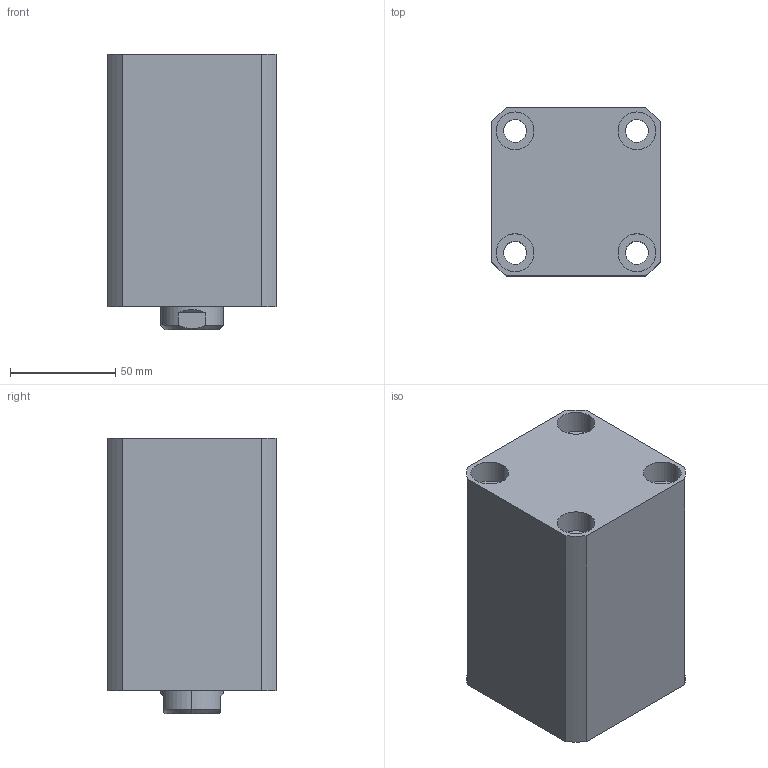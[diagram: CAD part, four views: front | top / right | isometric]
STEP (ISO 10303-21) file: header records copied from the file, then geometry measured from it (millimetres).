
FILE_DESCRIPTION (( 'STEP AP203' ), '1' );
FILE_NAME ('CHTB-SD50-60N.STEP', '2018-05-18T12:56:26', ( '' ), ( '' ), 'SwSTEP 2.0', 'SolidWorks 2015', '' );
FILE_SCHEMA (( 'CONFIG_CONTROL_DESIGN' ));
Length unit declared in the file: millimetre
Products named in the file (4): CHTB-SD50-60N; 掛极SD50-60N; CHTM-SD50QG; 活塞杆SD50-60N
Assembly tree (3 placements, depth 2):
  CHTB-SD50-60N
    掛极SD50-60N
    活塞杆SD50-60N
    CHTM-SD50QG
Bounding box: 80 x 80 x 131 mm (x, y, z)
Volume: 614644.9 mm3; surface area: 119981.5 mm2
Topology: 3 solids, 3 shells, 194 faces, 499 edges, 330 vertices
Faces by surface type: cylinder 104, plane 39, cone 21, torus 16, bspline 14
Entity records: 10789 total; most frequent: CARTESIAN_POINT 5840, ORIENTED_EDGE 986, DIRECTION 914, EDGE_CURVE 493, AXIS2_PLACEMENT_3D 383, VERTEX_POINT 330, EDGE_LOOP 233, CIRCLE 197
